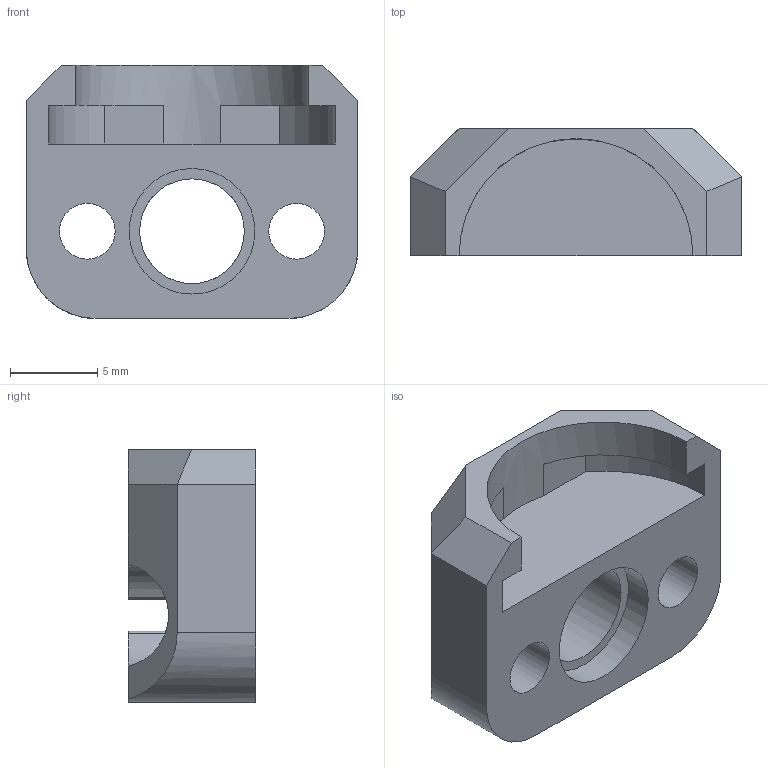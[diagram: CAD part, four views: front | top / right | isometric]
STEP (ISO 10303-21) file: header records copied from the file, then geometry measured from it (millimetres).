
FILE_DESCRIPTION(/* description */ (''),/* implementation_level */ '2;1');
FILE_NAME(/* name */ '3-23-4 Shock top one.step',/* time_stamp */ '2025-05-10T22:05:26+02:00',/* author */ (''),/* organization */ (''),/* preprocessor_version */ 'ST-DEVELOPER v20.1',/* originating_system */ 'Autodesk Translation Framework v14.4.0.0',/* authorisation */ '');
FILE_SCHEMA (('AUTOMOTIVE_DESIGN { 1 0 10303 214 3 1 1 }'));
Length unit declared in the file: millimetre
Products named in the file (1): 3-23-4 Shock top one
Bounding box: 19 x 7.3 x 14.5 mm (x, y, z)
Volume: 982.6 mm3; surface area: 1195.5 mm2
Topology: 1 solids, 1 shells, 36 faces, 106 edges, 70 vertices
Faces by surface type: plane 19, cylinder 15, cone 2
Full cylindrical faces by diameter (mm): 3.2 x2, 6 x1, 7.2 x1
Entity records: 1333 total; most frequent: CARTESIAN_POINT 295, ORIENTED_EDGE 212, DIRECTION 212, EDGE_CURVE 106, AXIS2_PLACEMENT_3D 76, VERTEX_POINT 70, LINE 60, VECTOR 60
